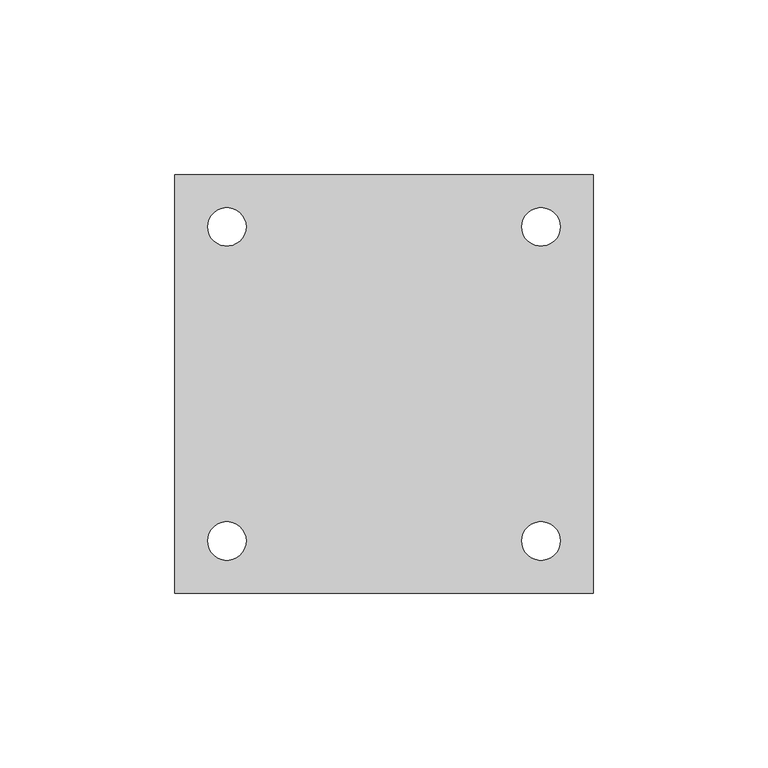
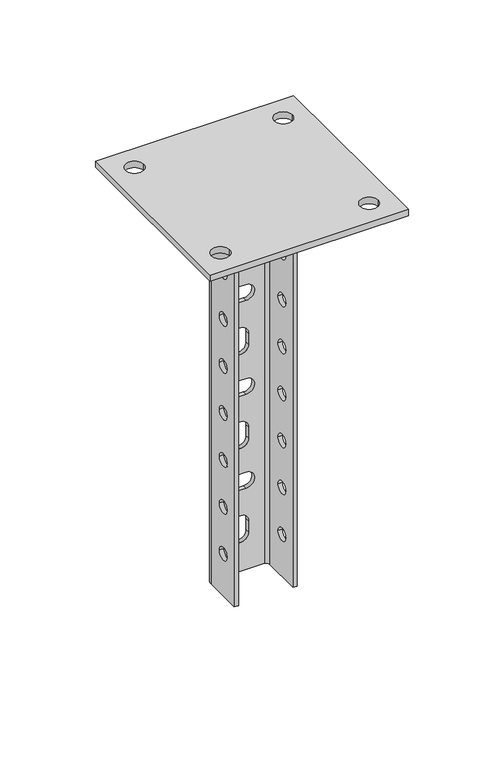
"""IFC4 building model written with IfcOpenShell, lengths in millimetres: proxy geometry, КМ Профиль_Универсальная потолочная стойка усиленная UPTU : UPTU250."""

from ifc_helpers import new_model, si_unit, point, frame, frame_2d, origin, place, context, project, spatial, polyline, circle_curve, trimmed, segment, composite_curve, outline, extrude, source, transform, mapped, element, save
from ifc_brep_helpers import plane_surface, cylinder_surface, revolved_surface, advanced_brep


def generic_models_f578f368(model_context):
    return source(origin(), model_context, "Body", "SolidModel", [
        advanced_brep(
        [(19.0, -14.5, -4.0), (19.0, 10.0, -4.0), (14.5, 14.5, -4.0), (-14.5, 14.5, -4.0), (-19.0, 10.0, -4.0), (-19.0, -14.5, -4.0), (-16.5, -14.5, -4.0), (-16.5, 10.0, -4.0), (-14.5, 12.0, -4.0), (14.5, 12.0, -4.0), (16.5, 10.0, -4.0), (16.5, -14.5, -4.0), (19.0, 10.0, -254.0), (19.0, -14.5, -254.0), (16.5, -14.5, -254.0), (16.5, 10.0, -254.0), (14.5, 12.0, -254.0), (-14.5, 12.0, -254.0), (-16.5, 10.0, -254.0), (-16.5, -14.5, -254.0), (-19.0, -14.5, -254.0), (-19.0, 10.0, -254.0), (-14.5, 14.5, -254.0), (14.5, 14.5, -254.0), (19.0, -7.0, -47.0), (19.0, 1.0, -47.0), (19.0, -7.0, -77.0), (19.0, 1.0, -77.0), (19.0, -7.0, -107.0), (19.0, 1.0, -107.0), (19.0, -7.0, -137.0), (19.0, 1.0, -137.0), (19.0, -7.0, -167.0), (19.0, 1.0, -167.0), (19.0, -7.0, -197.0), (19.0, 1.0, -197.0), (19.0, -7.0, -227.0), (19.0, 1.0, -227.0), (19.0, -7.0, -17.0), (19.0, 1.0, -17.0), (3.5, 14.5, -132.0), (-3.5, 14.5, -132.0), (-3.5, 14.5, -142.0), (3.5, 14.5, -142.0), (3.5, 14.5, -192.0), (-3.5, 14.5, -192.0), (-3.5, 14.5, -202.0), (3.5, 14.5, -202.0), (3.5, 14.5, -72.0), (-3.5, 14.5, -72.0), (-3.5, 14.5, -82.0), (3.5, 14.5, -82.0), (-5.0, 14.5, -103.5), (-5.0, 14.5, -110.5), (5.0, 14.5, -110.5), (5.0, 14.5, -103.5), (-5.0, 14.5, -163.5), (-5.0, 14.5, -170.5), (5.0, 14.5, -170.5), (5.0, 14.5, -163.5), (-5.0, 14.5, -223.5), (-5.0, 14.5, -230.5), (5.0, 14.5, -230.5), (5.0, 14.5, -223.5), (-5.0, 14.5, -43.5), (-5.0, 14.5, -50.5), (5.0, 14.5, -50.5), (5.0, 14.5, -43.5), (3.5, 14.5, -12.0), (-3.5, 14.5, -12.0), (-3.5, 14.5, -22.0), (3.5, 14.5, -22.0), (-19.0, -7.0, -17.0), (-19.0, 1.0, -17.0), (-19.0, -7.0, -47.0), (-19.0, 1.0, -47.0), (-19.0, -7.0, -77.0), (-19.0, 1.0, -77.0), (-19.0, -7.0, -107.0), (-19.0, 1.0, -107.0), (-19.0, -7.0, -137.0), (-19.0, 1.0, -137.0), (-19.0, -7.0, -167.0), (-19.0, 1.0, -167.0), (-19.0, -7.0, -197.0), (-19.0, 1.0, -197.0), (-19.0, -7.0, -227.0), (-19.0, 1.0, -227.0), (-16.5, 1.0, -17.0), (-16.5, -7.0, -17.0), (-16.5, 1.0, -47.0), (-16.5, -7.0, -47.0), (-16.5, 1.0, -77.0), (-16.5, -7.0, -77.0), (-16.5, 1.0, -107.0), (-16.5, -7.0, -107.0), (-16.5, 1.0, -137.0), (-16.5, -7.0, -137.0), (-16.5, 1.0, -167.0), (-16.5, -7.0, -167.0), (-16.5, 1.0, -197.0), (-16.5, -7.0, -197.0), (-16.5, 1.0, -227.0), (-16.5, -7.0, -227.0), (-3.5, 12.0, -132.0), (3.5, 12.0, -132.0), (3.5, 12.0, -142.0), (-3.5, 12.0, -142.0), (-3.5, 12.0, -192.0), (3.5, 12.0, -192.0), (3.5, 12.0, -202.0), (-3.5, 12.0, -202.0), (-3.5, 12.0, -72.0), (3.5, 12.0, -72.0), (3.5, 12.0, -82.0), (-3.5, 12.0, -82.0), (-5.0, 12.0, -110.5), (-5.0, 12.0, -103.5), (5.0, 12.0, -103.5), (5.0, 12.0, -110.5), (-5.0, 12.0, -170.5), (-5.0, 12.0, -163.5), (5.0, 12.0, -163.5), (5.0, 12.0, -170.5), (-5.0, 12.0, -230.5), (-5.0, 12.0, -223.5), (5.0, 12.0, -223.5), (5.0, 12.0, -230.5), (-5.0, 12.0, -50.5), (-5.0, 12.0, -43.5), (5.0, 12.0, -43.5), (5.0, 12.0, -50.5), (-3.5, 12.0, -12.0), (3.5, 12.0, -12.0), (3.5, 12.0, -22.0), (-3.5, 12.0, -22.0), (16.5, 1.0, -47.0), (16.5, -7.0, -47.0), (16.5, 1.0, -77.0), (16.5, -7.0, -77.0), (16.5, 1.0, -107.0), (16.5, -7.0, -107.0), (16.5, 1.0, -137.0), (16.5, -7.0, -137.0), (16.5, 1.0, -167.0), (16.5, -7.0, -167.0), (16.5, 1.0, -197.0), (16.5, -7.0, -197.0), (16.5, 1.0, -227.0), (16.5, -7.0, -227.0), (16.5, 1.0, -17.0), (16.5, -7.0, -17.0)],
        [
            (0, 1),
            (1, 2, circle_curve(frame((14.5, 10.0, -4.0), z_axis=(0.0, 0.0, 1.0), x_axis=(1.0, 0.0, 0.0)), 4.5)),
            (2, 3),
            (3, 4, circle_curve(frame((-14.5, 10.0, -4.0), z_axis=(0.0, 0.0, 1.0), x_axis=(1.0, 0.0, 0.0)), 4.5)),
            (4, 5),
            (5, 6),
            (6, 7),
            (7, 8, circle_curve(frame((-14.5, 10.0, -4.0), z_axis=(0.0, 0.0, -1.0), x_axis=(1.0, 0.0, 0.0)), 2.0)),
            (8, 9),
            (9, 10, circle_curve(frame((14.5, 10.0, -4.0), z_axis=(0.0, 0.0, -1.0), x_axis=(1.0, 0.0, 0.0)), 2.0)),
            (10, 11),
            (11, 0),
            (12, 13),
            (13, 14),
            (14, 15),
            (15, 16, circle_curve(frame((14.5, 10.0, -254.0), z_axis=(0.0, 0.0, 1.0), x_axis=(1.0, 0.0, 0.0)), 2.0)),
            (16, 17),
            (17, 18, circle_curve(frame((-14.5, 10.0, -254.0), z_axis=(0.0, 0.0, 1.0), x_axis=(1.0, 0.0, 0.0)), 2.0)),
            (18, 19),
            (19, 20),
            (20, 21),
            (21, 22, circle_curve(frame((-14.5, 10.0, -254.0), z_axis=(0.0, 0.0, -1.0), x_axis=(1.0, 0.0, 0.0)), 4.5)),
            (22, 23),
            (23, 12, circle_curve(frame((14.5, 10.0, -254.0), z_axis=(0.0, 0.0, -1.0), x_axis=(1.0, 0.0, 0.0)), 4.5)),
            (0, 13),
            (12, 1),
            (24, 25, circle_curve(frame((19.0, -3.0, -47.0), z_axis=(-1.0, 0.0, 0.0), x_axis=(0.0, -1.0, 0.0)), 4.0)),
            (25, 24, circle_curve(frame((19.0, -3.0, -47.0), z_axis=(-1.0, 0.0, 0.0), x_axis=(0.0, -1.0, 0.0)), 4.0)),
            (26, 27, circle_curve(frame((19.0, -3.0, -77.0), z_axis=(-1.0, 0.0, 0.0), x_axis=(0.0, -1.0, 0.0)), 4.0)),
            (27, 26, circle_curve(frame((19.0, -3.0, -77.0), z_axis=(-1.0, 0.0, 0.0), x_axis=(0.0, -1.0, 0.0)), 4.0)),
            (28, 29, circle_curve(frame((19.0, -3.0, -107.0), z_axis=(-1.0, 0.0, 0.0), x_axis=(0.0, -1.0, 0.0)), 4.0)),
            (29, 28, circle_curve(frame((19.0, -3.0, -107.0), z_axis=(-1.0, 0.0, 0.0), x_axis=(0.0, -1.0, 0.0)), 4.0)),
            (30, 31, circle_curve(frame((19.0, -3.0, -137.0), z_axis=(-1.0, 0.0, 0.0), x_axis=(0.0, -1.0, 0.0)), 4.0)),
            (31, 30, circle_curve(frame((19.0, -3.0, -137.0), z_axis=(-1.0, 0.0, 0.0), x_axis=(0.0, -1.0, 0.0)), 4.0)),
            (32, 33, circle_curve(frame((19.0, -3.0, -167.0), z_axis=(-1.0, 0.0, 0.0), x_axis=(0.0, -1.0, 0.0)), 4.0)),
            (33, 32, circle_curve(frame((19.0, -3.0, -167.0), z_axis=(-1.0, 0.0, 0.0), x_axis=(0.0, -1.0, 0.0)), 4.0)),
            (34, 35, circle_curve(frame((19.0, -3.0, -197.0), z_axis=(-1.0, 0.0, 0.0), x_axis=(0.0, -1.0, 0.0)), 4.0)),
            (35, 34, circle_curve(frame((19.0, -3.0, -197.0), z_axis=(-1.0, 0.0, 0.0), x_axis=(0.0, -1.0, 0.0)), 4.0)),
            (36, 37, circle_curve(frame((19.0, -3.0, -227.0), z_axis=(-1.0, 0.0, 0.0), x_axis=(0.0, -1.0, 0.0)), 4.0)),
            (37, 36, circle_curve(frame((19.0, -3.0, -227.0), z_axis=(-1.0, 0.0, 0.0), x_axis=(0.0, -1.0, 0.0)), 4.0)),
            (38, 39, circle_curve(frame((19.0, -3.0, -17.0), z_axis=(-1.0, 0.0, 0.0), x_axis=(0.0, -1.0, 0.0)), 4.0)),
            (39, 38, circle_curve(frame((19.0, -3.0, -17.0), z_axis=(-1.0, 0.0, 0.0), x_axis=(0.0, -1.0, 0.0)), 4.0)),
            (23, 2),
            (22, 3),
            (40, 41),
            (41, 42, circle_curve(frame((-3.5, 14.5, -137.0), z_axis=(0.0, -1.0, 0.0), x_axis=(-1.0, 0.0, 0.0)), 5.0)),
            (42, 43),
            (43, 40, circle_curve(frame((3.5, 14.5, -137.0), z_axis=(0.0, -1.0, 0.0), x_axis=(-1.0, 0.0, 0.0)), 5.0)),
            (44, 45),
            (45, 46, circle_curve(frame((-3.5, 14.5, -197.0), z_axis=(0.0, -1.0, 0.0), x_axis=(-1.0, 0.0, 0.0)), 5.0)),
            (46, 47),
            (47, 44, circle_curve(frame((3.5, 14.5, -197.0), z_axis=(0.0, -1.0, 0.0), x_axis=(-1.0, 0.0, 0.0)), 5.0)),
            (48, 49),
            (49, 50, circle_curve(frame((-3.5, 14.5, -77.0), z_axis=(0.0, -1.0, 0.0), x_axis=(-1.0, 0.0, 0.0)), 5.0)),
            (50, 51),
            (51, 48, circle_curve(frame((3.5, 14.5, -77.0), z_axis=(0.0, -1.0, 0.0), x_axis=(-1.0, 0.0, 0.0)), 5.0)),
            (52, 53),
            (53, 54, circle_curve(frame((0.0, 14.5, -110.5), z_axis=(0.0, -1.0, 0.0), x_axis=(0.0, 0.0, -1.0)), 5.0)),
            (54, 55),
            (55, 52, circle_curve(frame((0.0, 14.5, -103.5), z_axis=(0.0, -1.0, 0.0), x_axis=(0.0, 0.0, -1.0)), 5.0)),
            (56, 57),
            (57, 58, circle_curve(frame((0.0, 14.5, -170.5), z_axis=(0.0, -1.0, 0.0), x_axis=(0.0, 0.0, -1.0)), 5.0)),
            (58, 59),
            (59, 56, circle_curve(frame((0.0, 14.5, -163.5), z_axis=(0.0, -1.0, 0.0), x_axis=(0.0, 0.0, -1.0)), 5.0)),
            (60, 61),
            (61, 62, circle_curve(frame((0.0, 14.5, -230.5), z_axis=(0.0, -1.0, 0.0), x_axis=(0.0, 0.0, -1.0)), 5.0)),
            (62, 63),
            (63, 60, circle_curve(frame((0.0, 14.5, -223.5), z_axis=(0.0, -1.0, 0.0), x_axis=(0.0, 0.0, -1.0)), 5.0)),
            (64, 65),
            (65, 66, circle_curve(frame((0.0, 14.5, -50.5), z_axis=(0.0, -1.0, 0.0), x_axis=(0.0, 0.0, -1.0)), 5.0)),
            (66, 67),
            (67, 64, circle_curve(frame((0.0, 14.5, -43.5), z_axis=(0.0, -1.0, 0.0), x_axis=(0.0, 0.0, -1.0)), 5.0)),
            (68, 69),
            (69, 70, circle_curve(frame((-3.5, 14.5, -17.0), z_axis=(0.0, -1.0, 0.0), x_axis=(-1.0, 0.0, 0.0)), 5.0)),
            (70, 71),
            (71, 68, circle_curve(frame((3.5, 14.5, -17.0), z_axis=(0.0, -1.0, 0.0), x_axis=(-1.0, 0.0, 0.0)), 5.0)),
            (21, 4),
            (20, 5),
            (72, 73, circle_curve(frame((-19.0, -3.0, -17.0), z_axis=(1.0, 0.0, 0.0), x_axis=(0.0, -1.0, 0.0)), 4.0)),
            (73, 72, circle_curve(frame((-19.0, -3.0, -17.0), z_axis=(1.0, 0.0, 0.0), x_axis=(0.0, -1.0, 0.0)), 4.0)),
            (74, 75, circle_curve(frame((-19.0, -3.0, -47.0), z_axis=(1.0, 0.0, 0.0), x_axis=(0.0, -1.0, 0.0)), 4.0)),
            (75, 74, circle_curve(frame((-19.0, -3.0, -47.0), z_axis=(1.0, 0.0, 0.0), x_axis=(0.0, -1.0, 0.0)), 4.0)),
            (76, 77, circle_curve(frame((-19.0, -3.0, -77.0), z_axis=(1.0, 0.0, 0.0), x_axis=(0.0, -1.0, 0.0)), 4.0)),
            (77, 76, circle_curve(frame((-19.0, -3.0, -77.0), z_axis=(1.0, 0.0, 0.0), x_axis=(0.0, -1.0, 0.0)), 4.0)),
            (78, 79, circle_curve(frame((-19.0, -3.0, -107.0), z_axis=(1.0, 0.0, 0.0), x_axis=(0.0, -1.0, 0.0)), 4.0)),
            (79, 78, circle_curve(frame((-19.0, -3.0, -107.0), z_axis=(1.0, 0.0, 0.0), x_axis=(0.0, -1.0, 0.0)), 4.0)),
            (80, 81, circle_curve(frame((-19.0, -3.0, -137.0), z_axis=(1.0, 0.0, 0.0), x_axis=(0.0, -1.0, 0.0)), 4.0)),
            (81, 80, circle_curve(frame((-19.0, -3.0, -137.0), z_axis=(1.0, 0.0, 0.0), x_axis=(0.0, -1.0, 0.0)), 4.0)),
            (82, 83, circle_curve(frame((-19.0, -3.0, -167.0), z_axis=(1.0, 0.0, 0.0), x_axis=(0.0, -1.0, 0.0)), 4.0)),
            (83, 82, circle_curve(frame((-19.0, -3.0, -167.0), z_axis=(1.0, 0.0, 0.0), x_axis=(0.0, -1.0, 0.0)), 4.0)),
            (84, 85, circle_curve(frame((-19.0, -3.0, -197.0), z_axis=(1.0, 0.0, 0.0), x_axis=(0.0, -1.0, 0.0)), 4.0)),
            (85, 84, circle_curve(frame((-19.0, -3.0, -197.0), z_axis=(1.0, 0.0, 0.0), x_axis=(0.0, -1.0, 0.0)), 4.0)),
            (86, 87, circle_curve(frame((-19.0, -3.0, -227.0), z_axis=(1.0, 0.0, 0.0), x_axis=(0.0, -1.0, 0.0)), 4.0)),
            (87, 86, circle_curve(frame((-19.0, -3.0, -227.0), z_axis=(1.0, 0.0, 0.0), x_axis=(0.0, -1.0, 0.0)), 4.0)),
            (19, 6),
            (18, 7),
            (88, 89, circle_curve(frame((-16.5, -3.0, -17.0), z_axis=(-1.0, 0.0, 0.0), x_axis=(0.0, -1.0, 0.0)), 4.0)),
            (89, 88, circle_curve(frame((-16.5, -3.0, -17.0), z_axis=(-1.0, 0.0, 0.0), x_axis=(0.0, -1.0, 0.0)), 4.0)),
            (90, 91, circle_curve(frame((-16.5, -3.0, -47.0), z_axis=(-1.0, 0.0, 0.0), x_axis=(0.0, -1.0, 0.0)), 4.0)),
            (91, 90, circle_curve(frame((-16.5, -3.0, -47.0), z_axis=(-1.0, 0.0, 0.0), x_axis=(0.0, -1.0, 0.0)), 4.0)),
            (92, 93, circle_curve(frame((-16.5, -3.0, -77.0), z_axis=(-1.0, 0.0, 0.0), x_axis=(0.0, -1.0, 0.0)), 4.0)),
            (93, 92, circle_curve(frame((-16.5, -3.0, -77.0), z_axis=(-1.0, 0.0, 0.0), x_axis=(0.0, -1.0, 0.0)), 4.0)),
            (94, 95, circle_curve(frame((-16.5, -3.0, -107.0), z_axis=(-1.0, 0.0, 0.0), x_axis=(0.0, -1.0, 0.0)), 4.0)),
            (95, 94, circle_curve(frame((-16.5, -3.0, -107.0), z_axis=(-1.0, 0.0, 0.0), x_axis=(0.0, -1.0, 0.0)), 4.0)),
            (96, 97, circle_curve(frame((-16.5, -3.0, -137.0), z_axis=(-1.0, 0.0, 0.0), x_axis=(0.0, -1.0, 0.0)), 4.0)),
            (97, 96, circle_curve(frame((-16.5, -3.0, -137.0), z_axis=(-1.0, 0.0, 0.0), x_axis=(0.0, -1.0, 0.0)), 4.0)),
            (98, 99, circle_curve(frame((-16.5, -3.0, -167.0), z_axis=(-1.0, 0.0, 0.0), x_axis=(0.0, -1.0, 0.0)), 4.0)),
            (99, 98, circle_curve(frame((-16.5, -3.0, -167.0), z_axis=(-1.0, 0.0, 0.0), x_axis=(0.0, -1.0, 0.0)), 4.0)),
            (100, 101, circle_curve(frame((-16.5, -3.0, -197.0), z_axis=(-1.0, 0.0, 0.0), x_axis=(0.0, -1.0, 0.0)), 4.0)),
            (101, 100, circle_curve(frame((-16.5, -3.0, -197.0), z_axis=(-1.0, 0.0, 0.0), x_axis=(0.0, -1.0, 0.0)), 4.0)),
            (102, 103, circle_curve(frame((-16.5, -3.0, -227.0), z_axis=(-1.0, 0.0, 0.0), x_axis=(0.0, -1.0, 0.0)), 4.0)),
            (103, 102, circle_curve(frame((-16.5, -3.0, -227.0), z_axis=(-1.0, 0.0, 0.0), x_axis=(0.0, -1.0, 0.0)), 4.0)),
            (17, 8),
            (16, 9),
            (104, 105),
            (105, 106, circle_curve(frame((3.5, 12.0, -137.0), z_axis=(0.0, 1.0, 0.0), x_axis=(-1.0, 0.0, 0.0)), 5.0)),
            (106, 107),
            (107, 104, circle_curve(frame((-3.5, 12.0, -137.0), z_axis=(0.0, 1.0, 0.0), x_axis=(-1.0, 0.0, 0.0)), 5.0)),
            (108, 109),
            (109, 110, circle_curve(frame((3.5, 12.0, -197.0), z_axis=(0.0, 1.0, 0.0), x_axis=(-1.0, 0.0, 0.0)), 5.0)),
            (110, 111),
            (111, 108, circle_curve(frame((-3.5, 12.0, -197.0), z_axis=(0.0, 1.0, 0.0), x_axis=(-1.0, 0.0, 0.0)), 5.0)),
            (112, 113),
            (113, 114, circle_curve(frame((3.5, 12.0, -77.0), z_axis=(0.0, 1.0, 0.0), x_axis=(-1.0, 0.0, 0.0)), 5.0)),
            (114, 115),
            (115, 112, circle_curve(frame((-3.5, 12.0, -77.0), z_axis=(0.0, 1.0, 0.0), x_axis=(-1.0, 0.0, 0.0)), 5.0)),
            (116, 117),
            (117, 118, circle_curve(frame((0.0, 12.0, -103.5), z_axis=(0.0, 1.0, 0.0), x_axis=(0.0, 0.0, -1.0)), 5.0)),
            (118, 119),
            (119, 116, circle_curve(frame((0.0, 12.0, -110.5), z_axis=(0.0, 1.0, 0.0), x_axis=(0.0, 0.0, -1.0)), 5.0)),
            (120, 121),
            (121, 122, circle_curve(frame((0.0, 12.0, -163.5), z_axis=(0.0, 1.0, 0.0), x_axis=(0.0, 0.0, -1.0)), 5.0)),
            (122, 123),
            (123, 120, circle_curve(frame((0.0, 12.0, -170.5), z_axis=(0.0, 1.0, 0.0), x_axis=(0.0, 0.0, -1.0)), 5.0)),
            (124, 125),
            (125, 126, circle_curve(frame((0.0, 12.0, -223.5), z_axis=(0.0, 1.0, 0.0), x_axis=(0.0, 0.0, -1.0)), 5.0)),
            (126, 127),
            (127, 124, circle_curve(frame((0.0, 12.0, -230.5), z_axis=(0.0, 1.0, 0.0), x_axis=(0.0, 0.0, -1.0)), 5.0)),
            (128, 129),
            (129, 130, circle_curve(frame((0.0, 12.0, -43.5), z_axis=(0.0, 1.0, 0.0), x_axis=(0.0, 0.0, -1.0)), 5.0)),
            (130, 131),
            (131, 128, circle_curve(frame((0.0, 12.0, -50.5), z_axis=(0.0, 1.0, 0.0), x_axis=(0.0, 0.0, -1.0)), 5.0)),
            (132, 133),
            (133, 134, circle_curve(frame((3.5, 12.0, -17.0), z_axis=(0.0, 1.0, 0.0), x_axis=(-1.0, 0.0, 0.0)), 5.0)),
            (134, 135),
            (135, 132, circle_curve(frame((-3.5, 12.0, -17.0), z_axis=(0.0, 1.0, 0.0), x_axis=(-1.0, 0.0, 0.0)), 5.0)),
            (15, 10),
            (14, 11),
            (136, 137, circle_curve(frame((16.5, -3.0, -47.0), z_axis=(1.0, 0.0, 0.0), x_axis=(0.0, -1.0, 0.0)), 4.0)),
            (137, 136, circle_curve(frame((16.5, -3.0, -47.0), z_axis=(1.0, 0.0, 0.0), x_axis=(0.0, -1.0, 0.0)), 4.0)),
            (138, 139, circle_curve(frame((16.5, -3.0, -77.0), z_axis=(1.0, 0.0, 0.0), x_axis=(0.0, -1.0, 0.0)), 4.0)),
            (139, 138, circle_curve(frame((16.5, -3.0, -77.0), z_axis=(1.0, 0.0, 0.0), x_axis=(0.0, -1.0, 0.0)), 4.0)),
            (140, 141, circle_curve(frame((16.5, -3.0, -107.0), z_axis=(1.0, 0.0, 0.0), x_axis=(0.0, -1.0, 0.0)), 4.0)),
            (141, 140, circle_curve(frame((16.5, -3.0, -107.0), z_axis=(1.0, 0.0, 0.0), x_axis=(0.0, -1.0, 0.0)), 4.0)),
            (142, 143, circle_curve(frame((16.5, -3.0, -137.0), z_axis=(1.0, 0.0, 0.0), x_axis=(0.0, -1.0, 0.0)), 4.0)),
            (143, 142, circle_curve(frame((16.5, -3.0, -137.0), z_axis=(1.0, 0.0, 0.0), x_axis=(0.0, -1.0, 0.0)), 4.0)),
            (144, 145, circle_curve(frame((16.5, -3.0, -167.0), z_axis=(1.0, 0.0, 0.0), x_axis=(0.0, -1.0, 0.0)), 4.0)),
            (145, 144, circle_curve(frame((16.5, -3.0, -167.0), z_axis=(1.0, 0.0, 0.0), x_axis=(0.0, -1.0, 0.0)), 4.0)),
            (146, 147, circle_curve(frame((16.5, -3.0, -197.0), z_axis=(1.0, 0.0, 0.0), x_axis=(0.0, -1.0, 0.0)), 4.0)),
            (147, 146, circle_curve(frame((16.5, -3.0, -197.0), z_axis=(1.0, 0.0, 0.0), x_axis=(0.0, -1.0, 0.0)), 4.0)),
            (148, 149, circle_curve(frame((16.5, -3.0, -227.0), z_axis=(1.0, 0.0, 0.0), x_axis=(0.0, -1.0, 0.0)), 4.0)),
            (149, 148, circle_curve(frame((16.5, -3.0, -227.0), z_axis=(1.0, 0.0, 0.0), x_axis=(0.0, -1.0, 0.0)), 4.0)),
            (150, 151, circle_curve(frame((16.5, -3.0, -17.0), z_axis=(1.0, 0.0, 0.0), x_axis=(0.0, -1.0, 0.0)), 4.0)),
            (151, 150, circle_curve(frame((16.5, -3.0, -17.0), z_axis=(1.0, 0.0, 0.0), x_axis=(0.0, -1.0, 0.0)), 4.0)),
            (40, 105),
            (104, 41),
            (43, 106),
            (42, 107),
            (44, 109),
            (108, 45),
            (47, 110),
            (46, 111),
            (48, 113),
            (112, 49),
            (51, 114),
            (50, 115),
            (52, 117),
            (116, 53),
            (55, 118),
            (54, 119),
            (56, 121),
            (120, 57),
            (59, 122),
            (58, 123),
            (60, 125),
            (124, 61),
            (63, 126),
            (62, 127),
            (72, 89),
            (88, 73),
            (24, 137),
            (136, 25),
            (74, 91),
            (90, 75),
            (26, 139),
            (138, 27),
            (76, 93),
            (92, 77),
            (28, 141),
            (140, 29),
            (78, 95),
            (94, 79),
            (30, 143),
            (142, 31),
            (80, 97),
            (96, 81),
            (32, 145),
            (144, 33),
            (82, 99),
            (98, 83),
            (34, 147),
            (146, 35),
            (84, 101),
            (100, 85),
            (36, 149),
            (148, 37),
            (86, 103),
            (102, 87),
            (38, 151),
            (150, 39),
            (64, 129),
            (128, 65),
            (67, 130),
            (66, 131),
            (68, 133),
            (132, 69),
            (71, 134),
            (70, 135),
        ],
        [
            plane_surface(frame((19.0, 10.0, -4.0), z_axis=(0.0, 0.0, 1.0), x_axis=(0.0, 1.0, 0.0))),
            plane_surface(frame((19.0, 10.0, -254.0), z_axis=(0.0, 0.0, -1.0), x_axis=(0.0, -1.0, 0.0))),
            plane_surface(frame((19.0, -14.5, -4.0), z_axis=(1.0, 0.0, 0.0), x_axis=(0.0, 0.0, -1.0))),
            cylinder_surface(frame((14.5, 10.0, -254.0), z_axis=(0.0, 0.0, 1.0), x_axis=(1.0, 0.0, 0.0)), 4.5),
            plane_surface(frame((14.5, 14.5, -4.0), z_axis=(0.0, 1.0, 0.0), x_axis=(0.0, 0.0, -1.0))),
            cylinder_surface(frame((-14.5, 10.0, -254.0), z_axis=(0.0, 0.0, 1.0), x_axis=(1.0, 0.0, 0.0)), 4.5),
            plane_surface(frame((-19.0, 10.0, -4.0), z_axis=(-1.0, 0.0, 0.0), x_axis=(0.0, 0.0, -1.0))),
            plane_surface(frame((-19.0, -14.5, -4.0), z_axis=(0.0, -1.0, 0.0), x_axis=(0.0, 0.0, -1.0))),
            plane_surface(frame((-16.5, -14.5, -4.0), z_axis=(1.0, 0.0, 0.0), x_axis=(0.0, 0.0, -1.0))),
            revolved_surface(polyline([(-12.5, 10.0, -254.0), (-12.5, 10.0, -4.0)]), (-14.5, 10.0, -254.0), (0.0, 0.0, -1.0)),
            plane_surface(frame((-14.5, 12.0, -4.0), z_axis=(0.0, -1.0, 0.0), x_axis=(0.0, 0.0, -1.0))),
            revolved_surface(polyline([(16.5, 10.0, -254.0), (16.5, 10.0, -4.0)]), (14.5, 10.0, -254.0), (0.0, 0.0, -1.0)),
            plane_surface(frame((16.5, 10.0, -4.0), z_axis=(-1.0, 0.0, 0.0), x_axis=(0.0, 0.0, -1.0))),
            plane_surface(frame((16.5, -14.5, -4.0), z_axis=(0.0, -1.0, 0.0), x_axis=(0.0, 0.0, -1.0))),
            plane_surface(frame((-3.5, 14.5, -132.0), z_axis=(0.0, 0.0, -1.0), x_axis=(0.0, -1.0, 0.0))),
            revolved_surface(polyline([(-1.5, 14.5, -137.0), (-1.5, 12.0, -137.0)]), (3.5, 12.0, -137.0), (0.0, 1.0, 0.0)),
            plane_surface(frame((3.5, 14.5, -142.0), z_axis=(0.0, 0.0, 1.0), x_axis=(0.0, -1.0, 0.0))),
            revolved_surface(polyline([(-8.5, 14.5, -137.0), (-8.5, 12.0, -137.0)]), (-3.5, 12.0, -137.0), (0.0, 1.0, 0.0)),
            plane_surface(frame((-3.5, 14.5, -192.0), z_axis=(0.0, 0.0, -1.0), x_axis=(0.0, -1.0, 0.0))),
            revolved_surface(polyline([(-1.5, 14.5, -197.0), (-1.5, 12.0, -197.0)]), (3.5, 12.0, -197.0), (0.0, 1.0, 0.0)),
            plane_surface(frame((3.5, 14.5, -202.0), z_axis=(0.0, 0.0, 1.0), x_axis=(0.0, -1.0, 0.0))),
            revolved_surface(polyline([(-8.5, 14.5, -197.0), (-8.5, 12.0, -197.0)]), (-3.5, 12.0, -197.0), (0.0, 1.0, 0.0)),
            plane_surface(frame((-3.5, 14.5, -72.0), z_axis=(0.0, 0.0, -1.0), x_axis=(0.0, -1.0, 0.0))),
            revolved_surface(polyline([(-1.5, 14.5, -77.0), (-1.5, 12.0, -77.0)]), (3.5, 12.0, -77.0), (0.0, 1.0, 0.0)),
            plane_surface(frame((3.5, 14.5, -82.0), z_axis=(0.0, 0.0, 1.0), x_axis=(0.0, -1.0, 0.0))),
            revolved_surface(polyline([(-8.5, 14.5, -77.0), (-8.5, 12.0, -77.0)]), (-3.5, 12.0, -77.0), (0.0, 1.0, 0.0)),
            plane_surface(frame((-5.0, 14.5, -110.5), z_axis=(1.0, 0.0, 0.0), x_axis=(0.0, -1.0, 0.0))),
            revolved_surface(polyline([(0.0, 14.5, -108.5), (0.0, 12.0, -108.5)]), (0.0, 12.0, -103.5), (0.0, 1.0, 0.0)),
            plane_surface(frame((5.0, 14.5, -103.5), z_axis=(-1.0, 0.0, 0.0), x_axis=(0.0, -1.0, 0.0))),
            revolved_surface(polyline([(0.0, 14.5, -115.5), (0.0, 12.0, -115.5)]), (0.0, 12.0, -110.5), (0.0, 1.0, 0.0)),
            plane_surface(frame((-5.0, 14.5, -170.5), z_axis=(1.0, 0.0, 0.0), x_axis=(0.0, -1.0, 0.0))),
            revolved_surface(polyline([(0.0, 14.5, -168.5), (0.0, 12.0, -168.5)]), (0.0, 12.0, -163.5), (0.0, 1.0, 0.0)),
            plane_surface(frame((5.0, 14.5, -163.5), z_axis=(-1.0, 0.0, 0.0), x_axis=(0.0, -1.0, 0.0))),
            revolved_surface(polyline([(0.0, 14.5, -175.5), (0.0, 12.0, -175.5)]), (0.0, 12.0, -170.5), (0.0, 1.0, 0.0)),
            plane_surface(frame((-5.0, 14.5, -230.5), z_axis=(1.0, 0.0, 0.0), x_axis=(0.0, -1.0, 0.0))),
            revolved_surface(polyline([(0.0, 14.5, -228.5), (0.0, 12.0, -228.5)]), (0.0, 12.0, -223.5), (0.0, 1.0, 0.0)),
            plane_surface(frame((5.0, 14.5, -223.5), z_axis=(-1.0, 0.0, 0.0), x_axis=(0.0, -1.0, 0.0))),
            revolved_surface(polyline([(0.0, 14.5, -235.5), (0.0, 12.0, -235.5)]), (0.0, 12.0, -230.5), (0.0, 1.0, 0.0)),
            revolved_surface(polyline([(-19.0, -7.0, -17.0), (-16.5, -7.0, -17.0)]), (-16.5, -3.0, -17.0), (-1.0, 0.0, 0.0)),
            revolved_surface(polyline([(19.0, -7.0, -47.0), (16.5, -7.0, -47.0)]), (16.5, -3.0, -47.0), (1.0, 0.0, 0.0)),
            revolved_surface(polyline([(-19.0, -7.0, -47.0), (-16.5, -7.0, -47.0)]), (-16.5, -3.0, -47.0), (-1.0, 0.0, 0.0)),
            revolved_surface(polyline([(19.0, -7.0, -77.0), (16.5, -7.0, -77.0)]), (16.5, -3.0, -77.0), (1.0, 0.0, 0.0)),
            revolved_surface(polyline([(-19.0, -7.0, -77.0), (-16.5, -7.0, -77.0)]), (-16.5, -3.0, -77.0), (-1.0, 0.0, 0.0)),
            revolved_surface(polyline([(19.0, -7.0, -107.0), (16.5, -7.0, -107.0)]), (16.5, -3.0, -107.0), (1.0, 0.0, 0.0)),
            revolved_surface(polyline([(-19.0, -7.0, -107.0), (-16.5, -7.0, -107.0)]), (-16.5, -3.0, -107.0), (-1.0, 0.0, 0.0)),
            revolved_surface(polyline([(19.0, -7.0, -137.0), (16.5, -7.0, -137.0)]), (16.5, -3.0, -137.0), (1.0, 0.0, 0.0)),
            revolved_surface(polyline([(-19.0, -7.0, -137.0), (-16.5, -7.0, -137.0)]), (-16.5, -3.0, -137.0), (-1.0, 0.0, 0.0)),
            revolved_surface(polyline([(19.0, -7.0, -167.0), (16.5, -7.0, -167.0)]), (16.5, -3.0, -167.0), (1.0, 0.0, 0.0)),
            revolved_surface(polyline([(-19.0, -7.0, -167.0), (-16.5, -7.0, -167.0)]), (-16.5, -3.0, -167.0), (-1.0, 0.0, 0.0)),
            revolved_surface(polyline([(19.0, -7.0, -197.0), (16.5, -7.0, -197.0)]), (16.5, -3.0, -197.0), (1.0, 0.0, 0.0)),
            revolved_surface(polyline([(-19.0, -7.0, -197.0), (-16.5, -7.0, -197.0)]), (-16.5, -3.0, -197.0), (-1.0, 0.0, 0.0)),
            revolved_surface(polyline([(19.0, -7.0, -227.0), (16.5, -7.0, -227.0)]), (16.5, -3.0, -227.0), (1.0, 0.0, 0.0)),
            revolved_surface(polyline([(-19.0, -7.0, -227.0), (-16.5, -7.0, -227.0)]), (-16.5, -3.0, -227.0), (-1.0, 0.0, 0.0)),
            revolved_surface(polyline([(19.0, -7.0, -17.0), (16.5, -7.0, -17.0)]), (16.5, -3.0, -17.0), (1.0, 0.0, 0.0)),
            plane_surface(frame((-5.0, 14.5, -50.5), z_axis=(1.0, 0.0, 0.0), x_axis=(0.0, -1.0, 0.0))),
            revolved_surface(polyline([(0.0, 14.5, -48.5), (0.0, 12.0, -48.5)]), (0.0, 12.0, -43.5), (0.0, 1.0, 0.0)),
            plane_surface(frame((5.0, 14.5, -43.5), z_axis=(-1.0, 0.0, 0.0), x_axis=(0.0, -1.0, 0.0))),
            revolved_surface(polyline([(0.0, 14.5, -55.5), (0.0, 12.0, -55.5)]), (0.0, 12.0, -50.5), (0.0, 1.0, 0.0)),
            plane_surface(frame((-3.5, 14.5, -12.0), z_axis=(0.0, 0.0, -1.0), x_axis=(0.0, -1.0, 0.0))),
            revolved_surface(polyline([(-1.5, 14.5, -17.0), (-1.5, 12.0, -17.0)]), (3.5, 12.0, -17.0), (0.0, 1.0, 0.0)),
            plane_surface(frame((3.5, 14.5, -22.0), z_axis=(0.0, 0.0, 1.0), x_axis=(0.0, -1.0, 0.0))),
            revolved_surface(polyline([(-8.5, 14.5, -17.0), (-8.5, 12.0, -17.0)]), (-3.5, 12.0, -17.0), (0.0, 1.0, 0.0)),
        ],
        [
            (0, [[1, 2, 3, 4, 5, 6, 7, 8, 9, 10, 11, 12]]),
            (1, [[13, 14, 15, 16, 17, 18, 19, 20, 21, 22, 23, 24]]),
            (2, [[-1, 25, -13, 26], [27, 28], [29, 30], [31, 32], [33, 34], [35, 36], [37, 38], [39, 40], [41, 42]]),
            (3, [[-2, -26, -24, 43]]),
            (4, [[-3, -43, -23, 44], [45, 46, 47, 48], [49, 50, 51, 52], [53, 54, 55, 56], [57, 58, 59, 60], [61, 62, 63, 64], [65, 66, 67, 68], [69, 70, 71, 72], [73, 74, 75, 76]]),
            (5, [[-4, -44, -22, 77]]),
            (6, [[-5, -77, -21, 78], [79, 80], [81, 82], [83, 84], [85, 86], [87, 88], [89, 90], [91, 92], [93, 94]]),
            (7, [[-6, -78, -20, 95]]),
            (8, [[-7, -95, -19, 96], [97, 98], [99, 100], [101, 102], [103, 104], [105, 106], [107, 108], [109, 110], [111, 112]]),
            (9, [[-8, -96, -18, 113]]),
            (10, [[-9, -113, -17, 114], [115, 116, 117, 118], [119, 120, 121, 122], [123, 124, 125, 126], [127, 128, 129, 130], [131, 132, 133, 134], [135, 136, 137, 138], [139, 140, 141, 142], [143, 144, 145, 146]]),
            (11, [[-10, -114, -16, 147]]),
            (12, [[-11, -147, -15, 148], [149, 150], [151, 152], [153, 154], [155, 156], [157, 158], [159, 160], [161, 162], [163, 164]]),
            (13, [[-12, -148, -14, -25]]),
            (14, [[165, -115, 166, -45]]),
            (15, [[-165, -48, 167, -116]]),
            (16, [[-167, -47, 168, -117]]),
            (17, [[-166, -118, -168, -46]]),
            (18, [[169, -119, 170, -49]]),
            (19, [[-169, -52, 171, -120]]),
            (20, [[-171, -51, 172, -121]]),
            (21, [[-170, -122, -172, -50]]),
            (22, [[173, -123, 174, -53]]),
            (23, [[-173, -56, 175, -124]]),
            (24, [[-175, -55, 176, -125]]),
            (25, [[-174, -126, -176, -54]]),
            (26, [[177, -127, 178, -57]]),
            (27, [[-177, -60, 179, -128]]),
            (28, [[-179, -59, 180, -129]]),
            (29, [[-178, -130, -180, -58]]),
            (30, [[181, -131, 182, -61]]),
            (31, [[-181, -64, 183, -132]]),
            (32, [[-183, -63, 184, -133]]),
            (33, [[-182, -134, -184, -62]]),
            (34, [[185, -135, 186, -65]]),
            (35, [[-185, -68, 187, -136]]),
            (36, [[-187, -67, 188, -137]]),
            (37, [[-186, -138, -188, -66]]),
            (38, [[189, -97, 190, -79]]),
            (38, [[-189, -80, -190, -98]]),
            (39, [[191, -149, 192, -27]]),
            (39, [[-191, -28, -192, -150]]),
            (40, [[193, -99, 194, -81]]),
            (40, [[-193, -82, -194, -100]]),
            (41, [[195, -151, 196, -29]]),
            (41, [[-195, -30, -196, -152]]),
            (42, [[197, -101, 198, -83]]),
            (42, [[-197, -84, -198, -102]]),
            (43, [[199, -153, 200, -31]]),
            (43, [[-199, -32, -200, -154]]),
            (44, [[201, -103, 202, -85]]),
            (44, [[-201, -86, -202, -104]]),
            (45, [[203, -155, 204, -33]]),
            (45, [[-203, -34, -204, -156]]),
            (46, [[205, -105, 206, -87]]),
            (46, [[-205, -88, -206, -106]]),
            (47, [[207, -157, 208, -35]]),
            (47, [[-207, -36, -208, -158]]),
            (48, [[209, -107, 210, -89]]),
            (48, [[-209, -90, -210, -108]]),
            (49, [[211, -159, 212, -37]]),
            (49, [[-211, -38, -212, -160]]),
            (50, [[213, -109, 214, -91]]),
            (50, [[-213, -92, -214, -110]]),
            (51, [[215, -161, 216, -39]]),
            (51, [[-215, -40, -216, -162]]),
            (52, [[217, -111, 218, -93]]),
            (52, [[-217, -94, -218, -112]]),
            (53, [[219, -163, 220, -41]]),
            (53, [[-219, -42, -220, -164]]),
            (54, [[221, -139, 222, -69]]),
            (55, [[-221, -72, 223, -140]]),
            (56, [[-223, -71, 224, -141]]),
            (57, [[-222, -142, -224, -70]]),
            (58, [[225, -143, 226, -73]]),
            (59, [[-225, -76, 227, -144]]),
            (60, [[-227, -75, 228, -145]]),
            (61, [[-226, -146, -228, -74]]),
        ],
    ),
        extrude(outline(polyline([(-60.0, 60.0), (60.0, 60.0), (60.0, -60.0), (-60.0, -60.0), (-60.0, 60.0)]), holes=[composite_curve([segment(trimmed(circle_curve(frame_2d((-45.0, 45.0)), 5.5), [point((-50.5, 45.0))], [point((-39.5, 45.0))], True, "CARTESIAN"), True, "CONTINUOUS"), segment(trimmed(circle_curve(frame_2d((-45.0, 45.0)), 5.5), [point((-39.5, 45.0))], [point((-50.5, 45.0))], True, "CARTESIAN"), True, "CONTINUOUS")], self_intersect=False), composite_curve([segment(trimmed(circle_curve(frame_2d((45.0, 45.0)), 5.5), [point((39.5, 45.0))], [point((50.5, 45.0))], True, "CARTESIAN"), True, "CONTINUOUS"), segment(trimmed(circle_curve(frame_2d((45.0, 45.0)), 5.5), [point((50.5, 45.0))], [point((39.5, 45.0))], True, "CARTESIAN"), True, "CONTINUOUS")], self_intersect=False), composite_curve([segment(trimmed(circle_curve(frame_2d((45.0, -45.0)), 5.5), [point((39.5, -45.0))], [point((50.5, -45.0))], True, "CARTESIAN"), True, "CONTINUOUS"), segment(trimmed(circle_curve(frame_2d((45.0, -45.0)), 5.5), [point((50.5, -45.0))], [point((39.5, -45.0))], True, "CARTESIAN"), True, "CONTINUOUS")], self_intersect=False), composite_curve([segment(trimmed(circle_curve(frame_2d((-45.0, -45.0)), 5.5), [point((-50.5, -45.0))], [point((-39.5, -45.0))], True, "CARTESIAN"), True, "CONTINUOUS"), segment(trimmed(circle_curve(frame_2d((-45.0, -45.0)), 5.5), [point((-39.5, -45.0))], [point((-50.5, -45.0))], True, "CARTESIAN"), True, "CONTINUOUS")], self_intersect=False)]), frame((0.0, 0.0, -4.0), z_axis=(0.0, 0.0, 1.0), x_axis=(1.0, 0.0, 0.0)), (0.0, 0.0, 1.0), 4.0),
    ])


if __name__ == "__main__":
    model = new_model("IFC4")
    model_context = context("Model", 3, world=origin())
    ifc_project = project(units=[si_unit("LENGTHUNIT", "METRE", prefix="MILLI")], contexts=[model_context])
    site = spatial("IfcSite", under=ifc_project)
    building = spatial("IfcBuilding", under=site)
    placement = place(None, origin())
    generic_models_shape = generic_models_f578f368(model_context)
    element("IfcBuildingElementProxy", 1, Name="КМ Профиль_Универсальная потолочная стойка усиленная UPTU : UPTU250", ObjectType="КМ Профиль_Универсальная потолочная стойка усиленная UPTU : UPTU250", at=placement, inside=building, context=model_context, shape_type="MappedRepresentation", body=[
        mapped(generic_models_shape, transform((0.0, 0.0, 0.0), x_axis=(1.0, 0.0, 0.0), y_axis=(0.0, 1.0, 0.0), z_axis=(0.0, 0.0, 1.0))),
    ])
    save(model, "model.ifc")
